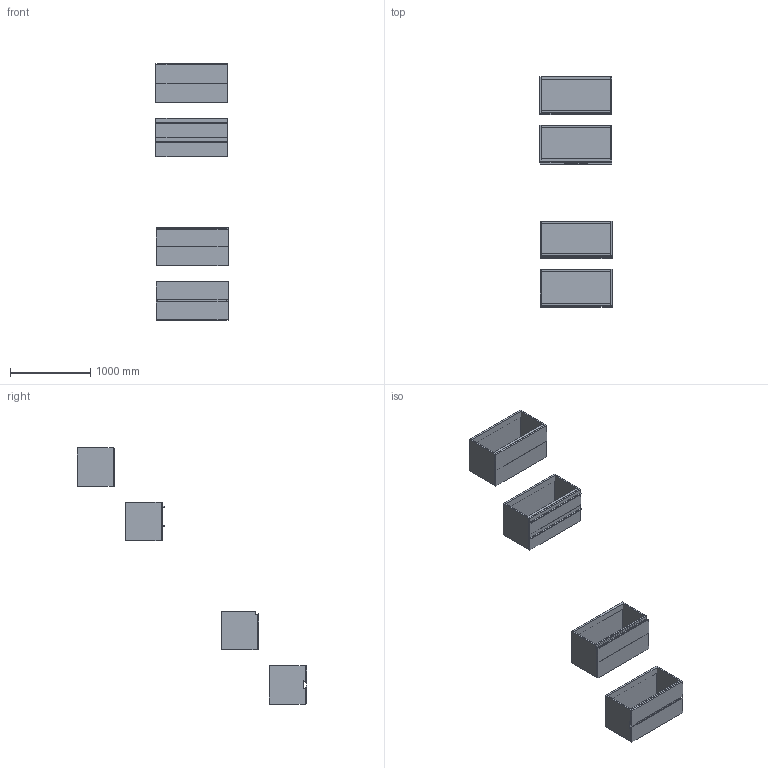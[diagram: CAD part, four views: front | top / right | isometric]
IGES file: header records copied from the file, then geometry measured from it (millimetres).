
Start section: Data from Parasolid IGES Translator 19.0.9, Copyright(c) 2006 Siemens PL M Software. All Rights Reserved.
Global section: file name: noorth-SI-H 48 D 47 W 90_8468.igs; native system: By Siemens PLM Incorporated; preprocessor: XPlus GENERIC/IGES 19.0.9; author: Noname; organization: Noname; date: 20200601.104817; units: metre
Bounding box: 904.84 x 2869.1 x 3200.01 mm (x, y, z)
Volume: 98215458.6 mm3; surface area: 15290648 mm2
Topology: 37 solids, 37 shells, 342 faces, 748 edges, 460 vertices
Faces by surface type: plane 254, extrusion 36, bspline 32, cylinder 20
